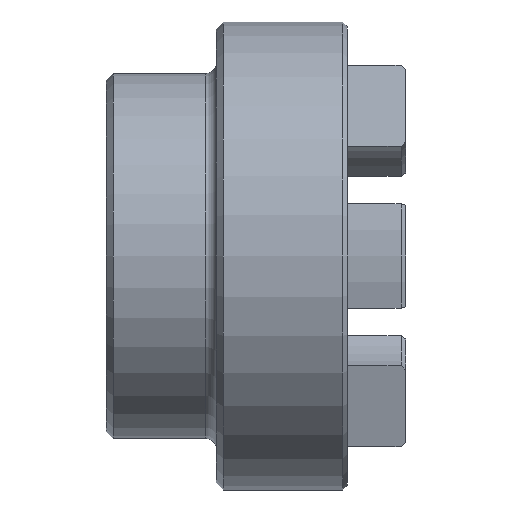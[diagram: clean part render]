
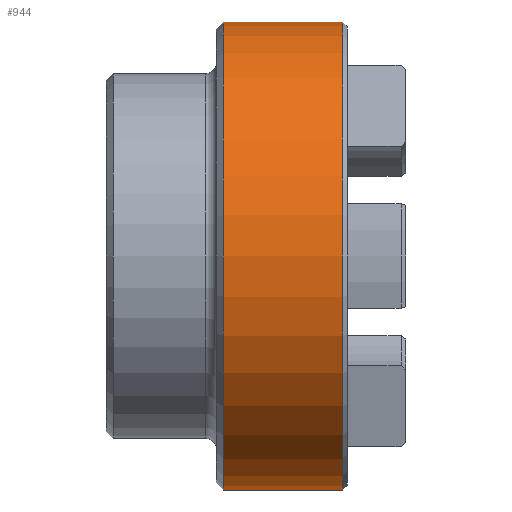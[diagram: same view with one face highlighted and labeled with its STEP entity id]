
A CAD part, front view. The second image highlights one B-rep face of the part: STEP entity #944.
In plain terms, the highlighted cylindrical face has radius 50.8 mm (diameter 101.6 mm), a full revolution.
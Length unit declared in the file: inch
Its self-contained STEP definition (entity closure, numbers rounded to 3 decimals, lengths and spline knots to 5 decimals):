
#50 = AXIS2_PLACEMENT_3D ( 'NONE', #914, #195, #1009 ) ;
#63 = VERTEX_POINT ( 'NONE', #1449 ) ;
#104 = CARTESIAN_POINT ( 'NONE',  ( 2.02, 0., 0. ) ) ;
#124 = EDGE_LOOP ( 'NONE', ( #1296 ) ) ;
#169 = AXIS2_PLACEMENT_3D ( 'NONE', #104, #1891, #664 ) ;
#195 = DIRECTION ( 'NONE',  ( -1., 0., 0. ) ) ;
#456 = CYLINDRICAL_SURFACE ( 'NONE', #50, 2. ) ;
#478 = FACE_OUTER_BOUND ( 'NONE', #124, .T. ) ;
#664 = DIRECTION ( 'NONE',  ( 0., 0., 1. ) ) ;
#674 = DIRECTION ( 'NONE',  ( 1., 0., 0. ) ) ;
#684 = AXIS2_PLACEMENT_3D ( 'NONE', #945, #674, #1266 ) ;
#752 = EDGE_CURVE ( 'NONE', #63, #63, #1360, .T. ) ;
#914 = CARTESIAN_POINT ( 'NONE',  ( 0.49, 0., 0. ) ) ;
#944 = ADVANCED_FACE ( 'NONE', ( #478, #1742 ), #456, .T. ) ;
#945 = CARTESIAN_POINT ( 'NONE',  ( 1., 0., 0. ) ) ;
#1009 = DIRECTION ( 'NONE',  ( 0., 0., 1. ) ) ;
#1024 = CIRCLE ( 'NONE', #684, 2. ) ;
#1069 = EDGE_CURVE ( 'NONE', #1510, #1510, #1024, .T. ) ;
#1171 = ORIENTED_EDGE ( 'NONE', *, *, #1069, .T. ) ;
#1266 = DIRECTION ( 'NONE',  ( 0., 0., -1. ) ) ;
#1296 = ORIENTED_EDGE ( 'NONE', *, *, #752, .T. ) ;
#1360 = CIRCLE ( 'NONE', #169, 2. ) ;
#1449 = CARTESIAN_POINT ( 'NONE',  ( 2.02, 0., 2. ) ) ;
#1510 = VERTEX_POINT ( 'NONE', #1665 ) ;
#1665 = CARTESIAN_POINT ( 'NONE',  ( 1., 0., -2. ) ) ;
#1742 = FACE_OUTER_BOUND ( 'NONE', #1750, .T. ) ;
#1750 = EDGE_LOOP ( 'NONE', ( #1171 ) ) ;
#1891 = DIRECTION ( 'NONE',  ( -1., 0., 0. ) ) ;
